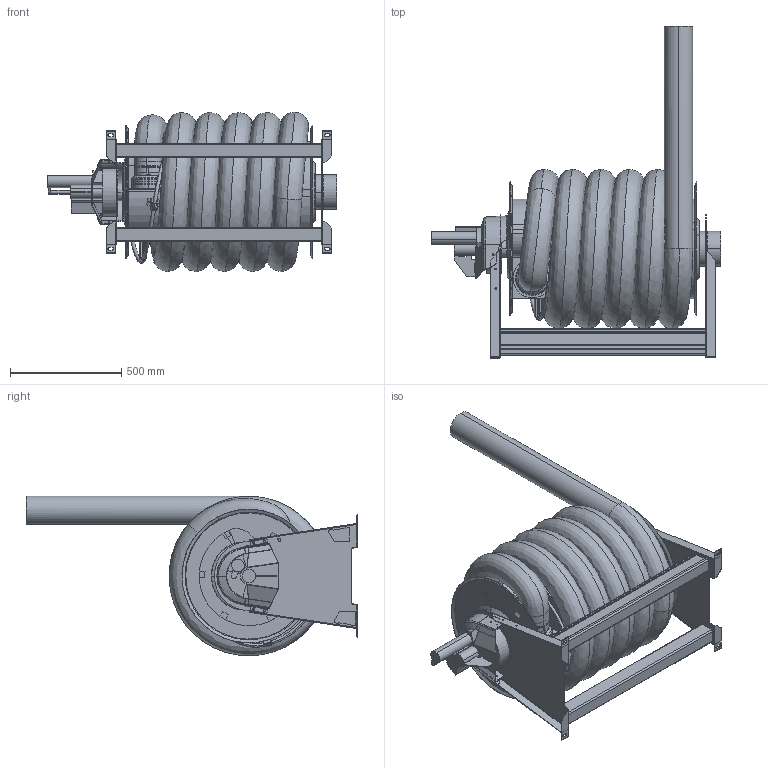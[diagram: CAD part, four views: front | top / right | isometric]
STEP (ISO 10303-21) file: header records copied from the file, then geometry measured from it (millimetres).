
FILE_DESCRIPTION((''),'2;1');
FILE_NAME('ASEM_85_125-12_5','2022-04-20T15:16:04',('Tomas Bellgran'),(''),'CREO PARAMETRIC BY PTC INC, 2018260','CREO PARAMETRIC BY PTC INC, 2018260','');
FILE_SCHEMA(('AUTOMOTIVE_DESIGN { 1 0 10303 214 1 1 1 1 }'));
Products named in the file (27): 110534; 110536; 110802; 111736; 111735; 110562; 112850; 110528; 110592; 110652; G_ASE_DUMMY; 124129; G_ASL-EVO_150CON_BRACKET; GUIDE_125; 110660; 124297; ASEM_DRUM_85_125; HOSE_125_125; 143740; 143700; 143550; 144299; 143702; 144230; 111192_NEW; 104504_L; ASEM_85_125-12_5
Assembly tree (30 placements, depth 4):
  ASEM_85_125-12_5
    110562
      110534
      110536
      110802  x2
      111736
      111735
    112850  x2
    ASEM_DRUM_85_125
      110528  x2
      110592
      110652
      G_ASL-EVO_150CON_BRACKET
        G_ASE_DUMMY
        124129
      GUIDE_125
      110660  x2
      124297
    HOSE_125_125
    104504_L
      143740
      143702
        143700
        143550
        144299
      144230
      111192_NEW
Bounding box: 1302 x 1490.99 x 717.05 mm (x, y, z)
Volume: 282053526.8 mm3; surface area: 12412017.4 mm2
Topology: 25 solids, 29 shells, 1063 faces, 2505 edges, 1505 vertices
Faces by surface type: plane 544, cylinder 328, bspline 87, torus 72, cone 32
Entity records: 55520 total; most frequent: CARTESIAN_POINT 19953, DIRECTION 4694, ORIENTED_EDGE 4122, EDGE_CURVE 2067, AXIS2_PLACEMENT_3D 1680, PRESENTATION_STYLE_ASSIGNMENT 1645, STYLED_ITEM 1644, PROPERTY_DEFINITION 1425
